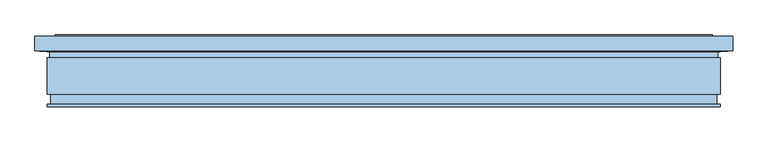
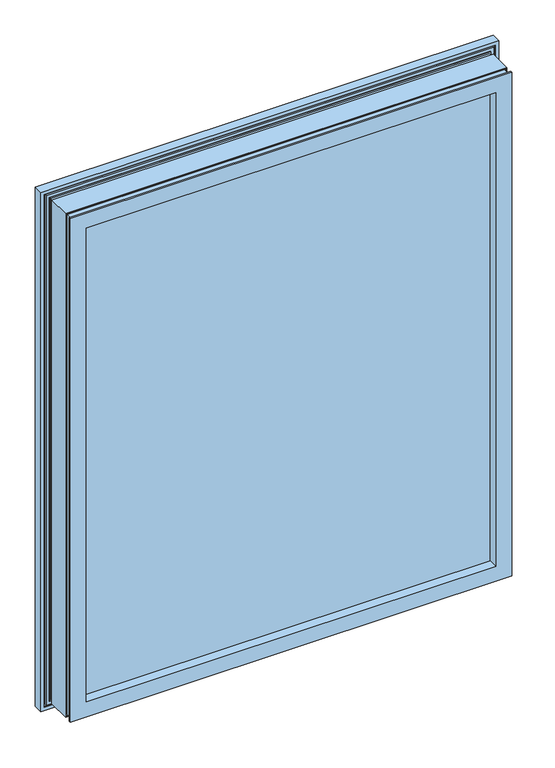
"""IFC4 building model written with IfcOpenShell, lengths in millimetres: window geometry, Comfort+_CVU-1_Metaglas : KozijnMerk."""

from ifc_helpers import new_model, si_unit, frame, origin, place, context, project, spatial, polyline, outline, extrude, faceted_brep, source, transform, mapped, element, save


def window_129eb522(model_context):
    return source(origin(), model_context, "Body", "SolidModel", [
        extrude(outline(polyline([(464.0, 22.0), (464.0, 16.0), (-464.0, 16.0), (-464.0, 22.0), (464.0, 22.0)])), frame((0.0, 0.0, 844.0), z_axis=(0.0, 0.0, 1.0), x_axis=(1.0, 0.0, 0.0)), (0.0, 0.0, 1.0), 1128.0),
        extrude(outline(polyline([(464.0, 1.0), (464.0, -3.5), (-464.0, -3.5), (-464.0, 1.0), (464.0, 1.0)])), frame((0.0, 0.0, 844.0), z_axis=(0.0, 0.0, 1.0), x_axis=(1.0, 0.0, 0.0)), (0.0, 0.0, 1.0), 1128.0),
        extrude(outline(polyline([(464.0, -18.5), (464.0, -24.5), (-464.0, -24.5), (-464.0, -18.5), (464.0, -18.5)])), frame((0.0, 0.0, 844.0), z_axis=(0.0, 0.0, 1.0), x_axis=(1.0, 0.0, 0.0)), (0.0, 0.0, 1.0), 1128.0),
        extrude(outline(polyline([(844.0, 464.0), (1972.0, 464.0), (1972.0, -464.0), (844.0, -464.0), (844.0, 464.0)]), holes=[polyline([(1960.0, 452.0), (856.0, 452.0), (856.0, -452.0), (1960.0, -452.0), (1960.0, 452.0)])]), frame((0.0, 1.0, 0.0), z_axis=(0.0, 1.0, 0.0), x_axis=(0.0, 0.0, 1.0)), (0.0, 0.0, 1.0), 15.0),
        extrude(outline(polyline([(844.0, 464.0), (1972.0, 464.0), (1972.0, -464.0), (844.0, -464.0), (844.0, 464.0)]), holes=[polyline([(1960.0, 452.0), (856.0, 452.0), (856.0, -452.0), (1960.0, -452.0), (1960.0, 452.0)])]), frame((0.0, -18.5, 0.0), z_axis=(0.0, 1.0, 0.0), x_axis=(0.0, 0.0, 1.0)), (0.0, 0.0, 1.0), 15.0),
        faceted_brep([(-492.8725928, 32.3765351, 2000.8725928), (-492.8725928, 29.0, 2000.8725928), (-492.8725928, 29.0, 815.1274072), (-492.8725928, 32.3765351, 815.1274072), (-500.0, 29.0, 808.0), (500.0, 29.0, 808.0), (500.0, 29.0, 2008.0), (-500.0, 29.0, 2008.0), (492.8725928, 29.0, 2000.8725928), (492.8725928, 29.0, 815.1274072), (492.8725928, 32.3765351, 815.1274072), (492.8725928, 32.3765351, 2000.8725928), (-489.0089631, 32.3765351, 1997.0089631), (489.0089631, 32.3765351, 1997.0089631), (489.0089631, 32.3765351, 818.9910369), (-489.0089631, 32.3765351, 818.9910369), (-489.0089631, 29.0, 1997.0089631), (-489.0089631, 29.0, 818.9910369), (489.0089631, 29.0, 818.9910369), (489.0089631, 29.0, 1997.0089631), (-481.9850614, 29.0, 1989.9850614), (481.9850614, 29.0, 1989.9850614), (481.9850614, 29.0, 826.0149386), (-481.9850614, 29.0, 826.0149386), (-481.9850614, 27.9608904, 1989.9850614), (-481.9850614, 27.9608904, 826.0149386), (481.9850614, 27.9608904, 826.0149386), (481.9850614, 27.9608904, 1989.9850614), (-478.7447337, 27.9608904, 1986.7447337), (478.7447337, 27.9608904, 1986.7447337), (478.7447337, 27.9608904, 829.2552663), (-478.7447337, 27.9608904, 829.2552663), (-478.7447337, 19.1940428, 1986.7447337), (-478.7447337, 19.1940428, 829.2552663), (478.7447337, 19.1940428, 829.2552663), (-481.9850614, 19.1940428, 1989.9850614), (481.9850614, 19.1940428, 1989.9850614), (481.9850614, 19.1940428, 826.0149386), (-481.9850614, 19.1940428, 826.0149386), (478.7447337, 19.1940428, 1986.7447337), (-481.9850614, -33.0, 1989.9850614), (-481.9850614, -33.0, 826.0149386), (481.9850614, -33.0, 826.0149386), (481.9850614, -33.0, 1989.9850614), (-480.4999232, -33.0, 1988.4999232), (480.4999232, -33.0, 1988.4999232), (480.4999232, -33.0, 827.5000768), (-480.4999232, -33.0, 827.5000768), (-480.4999232, -31.0, 1988.4999232), (-480.4999232, -31.0, 827.5000768), (480.4999232, -31.0, 827.5000768), (480.4999232, -31.0, 1988.4999232), (-477.4912716, -31.0, 1985.4912716), (477.4912716, -31.0, 1985.4912716), (477.4912716, -31.0, 830.5087284), (-477.4912716, -31.0, 830.5087284), (-477.4912716, -49.0, 1985.4912716), (-477.4912716, -49.0, 830.5087284), (477.4912716, -49.0, 830.5087284), (-480.4999232, -49.0, 1988.4999232), (480.4999232, -49.0, 1988.4999232), (480.4999232, -49.0, 827.5000768), (-480.4999232, -49.0, 827.5000768), (477.4912716, -49.0, 1985.4912716), (-480.4999232, -47.0, 1988.4999232), (-480.4999232, -47.0, 827.5000768), (480.4999232, -47.0, 827.5000768), (-481.9850614, -47.0, 1989.9850614), (481.9850614, -47.0, 1989.9850614), (481.9850614, -47.0, 826.0149386), (-481.9850614, -47.0, 826.0149386), (480.4999232, -47.0, 1988.4999232), (-481.9850614, -51.0307326, 1989.9850614), (-481.9850614, -51.0307326, 826.0149386), (481.9850614, -51.0307326, 826.0149386), (481.9850614, -51.0307326, 1989.9850614), (-446.9850614, -51.0307326, 1954.9850614), (446.9850614, -51.0307326, 1954.9850614), (446.9850614, -51.0307326, 861.0149386), (-446.9850614, -51.0307326, 861.0149386), (-446.9850614, -30.0, 1954.9850614), (-446.9850614, -30.0, 861.0149386), (446.9850614, -30.0, 861.0149386), (-454.1273304, -30.0, 1962.1273304), (454.1273304, -30.0, 1962.1273304), (454.1273304, -30.0, 853.8726696), (-454.1273304, -30.0, 853.8726696), (446.9850614, -30.0, 1954.9850614), (-454.1273304, -33.1902947, 1962.1273304), (-454.1273304, -33.1902947, 853.8726696), (454.1273304, -33.1902947, 853.8726696), (-457.9909601, -33.1902947, 1965.9909601), (457.9909601, -33.1902947, 1965.9909601), (457.9909601, -33.1902947, 850.0090399), (-457.9909601, -33.1902947, 850.0090399), (454.1273304, -33.1902947, 1962.1273304), (-457.9909601, -30.0, 1965.9909601), (-457.9909601, -30.0, 850.0090399), (457.9909601, -30.0, 850.0090399), (-465.0, -30.0, 1973.0), (465.0, -30.0, 1973.0), (465.0, -30.0, 843.0), (-465.0, -30.0, 843.0), (457.9909601, -30.0, 1965.9909601), (-465.0, -28.9608904, 1973.0), (-465.0, -28.9608904, 843.0), (465.0, -28.9608904, 843.0), (-468.2224333, -28.9608904, 1976.2224333), (468.2224333, -28.9608904, 1976.2224333), (468.2224333, -28.9608904, 839.7775667), (-468.2224333, -28.9608904, 839.7775667), (465.0, -28.9608904, 1973.0), (-468.2224333, -20.1940428, 1976.2224333), (-468.2224333, -20.1940428, 839.7775667), (468.2224333, -20.1940428, 839.7775667), (468.2224333, -20.1940428, 1976.2224333), (-465.0, -20.1940428, 1973.0), (465.0, -20.1940428, 1973.0), (465.0, -20.1940428, 843.0), (-465.0, -20.1940428, 843.0), (-465.0, 32.0, 1973.0), (-465.0, 32.0, 843.0), (465.0, 32.0, 843.0), (-466.502736, 32.0, 1974.502736), (466.502736, 32.0, 1974.502736), (466.502736, 32.0, 841.497264), (-466.502736, 32.0, 841.497264), (465.0, 32.0, 1973.0), (-466.502736, 30.0, 1974.502736), (-466.502736, 30.0, 841.497264), (466.502736, 30.0, 841.497264), (-469.5, 30.0, 1977.5), (469.5, 30.0, 1977.5), (469.5, 30.0, 838.5), (-469.5, 30.0, 838.5), (466.502736, 30.0, 1974.502736), (-469.5, 48.0, 1977.5), (-469.5, 48.0, 838.5), (469.5, 48.0, 838.5), (469.5, 48.0, 1977.5), (-466.5, 48.0, 1974.5), (466.5, 48.0, 1974.5), (466.5, 48.0, 841.5), (-466.5, 48.0, 841.5), (-466.5, 46.0, 1974.5), (-466.5, 46.0, 841.5), (466.5, 46.0, 841.5), (466.5, 46.0, 1974.5), (-465.0, 46.0, 1973.0), (465.0, 46.0, 1973.0), (465.0, 46.0, 843.0), (-465.0, 46.0, 843.0), (-465.0, 50.0, 1973.0), (-465.0, 50.0, 843.0), (465.0, 50.0, 843.0), (-500.0, 50.0, 2008.0), (500.0, 50.0, 2008.0), (500.0, 50.0, 808.0), (-500.0, 50.0, 808.0), (465.0, 50.0, 1973.0)], [[[0, 1, 2, 3]], [[4, 5, 6, 7], [1, 8, 9, 2]], [[3, 2, 9, 10]], [[3, 10, 11, 0], [12, 13, 14, 15]], [[16, 12, 15, 17]], [[17, 15, 14, 18]], [[17, 18, 19, 16], [20, 21, 22, 23]], [[24, 20, 23, 25]], [[25, 23, 22, 26]], [[25, 26, 27, 24], [28, 29, 30, 31]], [[32, 28, 31, 33]], [[33, 31, 30, 34]], [[35, 36, 37, 38], [33, 34, 39, 32]], [[40, 35, 38, 41]], [[41, 38, 37, 42]], [[41, 42, 43, 40], [44, 45, 46, 47]], [[48, 44, 47, 49]], [[49, 47, 46, 50]], [[49, 50, 51, 48], [52, 53, 54, 55]], [[56, 52, 55, 57]], [[57, 55, 54, 58]], [[59, 60, 61, 62], [57, 58, 63, 56]], [[64, 59, 62, 65]], [[65, 62, 61, 66]], [[67, 68, 69, 70], [65, 66, 71, 64]], [[72, 67, 70, 73]], [[73, 70, 69, 74]], [[73, 74, 75, 72], [76, 77, 78, 79]], [[80, 76, 79, 81]], [[81, 79, 78, 82]], [[83, 84, 85, 86], [81, 82, 87, 80]], [[88, 83, 86, 89]], [[89, 86, 85, 90]], [[91, 92, 93, 94], [89, 90, 95, 88]], [[96, 91, 94, 97]], [[97, 94, 93, 98]], [[99, 100, 101, 102], [97, 98, 103, 96]], [[104, 99, 102, 105]], [[105, 102, 101, 106]], [[107, 108, 109, 110], [105, 106, 111, 104]], [[112, 107, 110, 113]], [[113, 110, 109, 114]], [[113, 114, 115, 112], [116, 117, 118, 119]], [[120, 116, 119, 121]], [[121, 119, 118, 122]], [[123, 124, 125, 126], [121, 122, 127, 120]], [[128, 123, 126, 129]], [[129, 126, 125, 130]], [[131, 132, 133, 134], [129, 130, 135, 128]], [[136, 131, 134, 137]], [[137, 134, 133, 138]], [[137, 138, 139, 136], [140, 141, 142, 143]], [[144, 140, 143, 145]], [[145, 143, 142, 146]], [[145, 146, 147, 144], [148, 149, 150, 151]], [[152, 148, 151, 153]], [[153, 151, 150, 154]], [[155, 156, 157, 158], [153, 154, 159, 152]], [[7, 155, 158, 4]], [[4, 158, 157, 5]], [[10, 9, 8, 11]], [[18, 14, 13, 19]], [[26, 22, 21, 27]], [[34, 30, 29, 39]], [[42, 37, 36, 43]], [[50, 46, 45, 51]], [[58, 54, 53, 63]], [[66, 61, 60, 71]], [[74, 69, 68, 75]], [[82, 78, 77, 87]], [[90, 85, 84, 95]], [[98, 93, 92, 103]], [[106, 101, 100, 111]], [[114, 109, 108, 115]], [[122, 118, 117, 127]], [[130, 125, 124, 135]], [[138, 133, 132, 139]], [[146, 142, 141, 147]], [[154, 150, 149, 159]], [[5, 157, 156, 6]], [[11, 8, 1, 0]], [[19, 13, 12, 16]], [[27, 21, 20, 24]], [[39, 29, 28, 32]], [[43, 36, 35, 40]], [[51, 45, 44, 48]], [[63, 53, 52, 56]], [[71, 60, 59, 64]], [[75, 68, 67, 72]], [[87, 77, 76, 80]], [[95, 84, 83, 88]], [[103, 92, 91, 96]], [[111, 100, 99, 104]], [[115, 108, 107, 112]], [[127, 117, 116, 120]], [[135, 124, 123, 128]], [[139, 132, 131, 136]], [[147, 141, 140, 144]], [[159, 149, 148, 152]], [[6, 156, 155, 7]]]),
        faceted_brep([(-454.4569059, 37.7, 1962.4569059), (-454.4569059, 30.9, 1962.4569059), (-454.4569059, 30.9, 853.5430941), (-454.4569059, 37.7, 853.5430941), (454.4569059, 30.9, 853.5430941), (454.4569059, 37.7, 853.5430941), (458.1, 30.9, 849.9), (458.1, 30.9, 1966.1), (-458.1, 30.9, 1966.1), (-458.1, 30.9, 849.9), (454.4569059, 30.9, 1962.4569059), (454.4569059, 37.7, 1962.4569059), (-450.6430941, 37.7, 857.3569059), (-450.6430941, 37.7, 1958.6430941), (450.6430941, 37.7, 1958.6430941), (450.6430941, 37.7, 857.3569059), (-450.6430941, 30.9, 1958.6430941), (-450.6430941, 30.9, 857.3569059), (450.6430941, 30.9, 857.3569059), (450.6430941, 30.9, 1958.6430941), (-447.0, 30.9, 861.0), (-447.0, 30.9, 1955.0), (447.0, 30.9, 1955.0), (447.0, 30.9, 861.0), (-447.0, 52.0, 1955.0), (-447.0, 52.0, 861.0), (447.0, 52.0, 861.0), (447.0, 52.0, 1955.0), (-471.1687709, 52.0, 836.8312291), (-471.1687709, 52.0, 1979.1687709), (471.1687709, 52.0, 1979.1687709), (471.1687709, 52.0, 836.8312291), (-471.1687709, 50.0, 1979.1687709), (-471.1687709, 50.0, 836.8312291), (471.1687709, 50.0, 836.8312291), (471.1687709, 50.0, 1979.1687709), (-465.0, 50.0, 843.0), (-465.0, 50.0, 1973.0), (465.0, 50.0, 1973.0), (465.0, 50.0, 843.0), (-465.0, 45.0, 1973.0), (-465.0, 45.0, 843.0), (465.0, 45.0, 843.0), (465.0, 45.0, 1973.0), (-458.1, 45.0, 849.9), (-458.1, 45.0, 1966.1), (458.1, 45.0, 1966.1), (458.1, 45.0, 849.9)], [[[0, 1, 2, 3]], [[3, 2, 4, 5]], [[6, 7, 8, 9], [2, 1, 10, 4]], [[5, 4, 10, 11]], [[5, 11, 0, 3], [12, 13, 14, 15]], [[16, 13, 12, 17]], [[17, 12, 15, 18]], [[18, 15, 14, 19]], [[18, 19, 16, 17], [20, 21, 22, 23]], [[24, 21, 20, 25]], [[25, 20, 23, 26]], [[26, 23, 22, 27]], [[28, 29, 30, 31], [26, 27, 24, 25]], [[32, 29, 28, 33]], [[33, 28, 31, 34]], [[34, 31, 30, 35]], [[34, 35, 32, 33], [36, 37, 38, 39]], [[40, 37, 36, 41]], [[41, 36, 39, 42]], [[42, 39, 38, 43]], [[42, 43, 40, 41], [44, 45, 46, 47]], [[8, 45, 44, 9]], [[9, 44, 47, 6]], [[6, 47, 46, 7]], [[11, 10, 1, 0]], [[19, 14, 13, 16]], [[27, 22, 21, 24]], [[35, 30, 29, 32]], [[43, 38, 37, 40]], [[7, 46, 45, 8]]]),
    ])


if __name__ == "__main__":
    model = new_model("IFC4")
    model_context = context("Model", 3, world=origin())
    ifc_project = project(units=[si_unit("LENGTHUNIT", "METRE", prefix="MILLI")], contexts=[model_context])
    site = spatial("IfcSite", under=ifc_project)
    building = spatial("IfcBuilding", under=site)
    placement = place(None, origin())
    window_shape = window_129eb522(model_context)
    element("IfcWindow", 1, ObjectType="Comfort+_CVU-1_Metaglas : KozijnMerk", at=placement, inside=building, context=model_context, shape_type="MappedRepresentation", body=[
        mapped(window_shape, transform((0.0, 0.0, 0.0), x_axis=(1.0, 0.0, 0.0), y_axis=(0.0, 1.0, 0.0), z_axis=(0.0, 0.0, 1.0))),
    ])
    save(model, "model.ifc")
